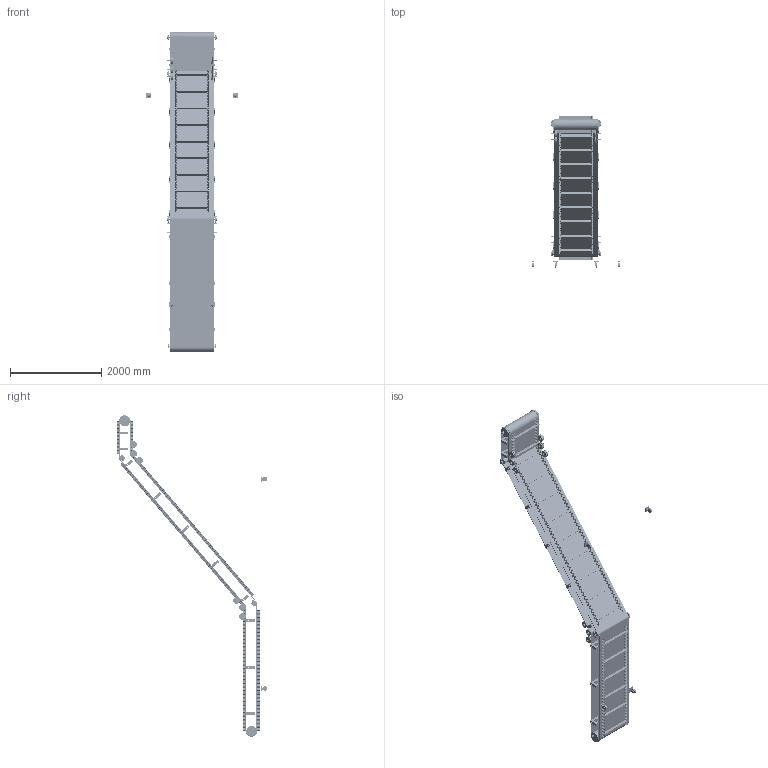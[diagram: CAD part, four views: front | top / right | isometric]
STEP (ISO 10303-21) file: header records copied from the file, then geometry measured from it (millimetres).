
FILE_DESCRIPTION(/* description */ (''),/* implementation_level */ '2;1');
FILE_NAME(/* name */ 'beltconveyor_a051_w900_l8000.stp',/* time_stamp */ '2024-12-22T16:35:12+08:00',/* author */ (''),/* organization */ (''),/* preprocessor_version */ 'ST-DEVELOPER v16.7',/* originating_system */ 'SIEMENS PLM Software NX 12.0',/* authorisation */ '');
FILE_SCHEMA (('AUTOMOTIVE_DESIGN { 1 0 10303 214 3 1 1 1 }'));
Products named in the file (12): kayar rulman yata瘕25 lik.IGS; alt silindir.IGS; Part1.IGS; silindir.IGS; teker11.IGS; gerdirme tekeri mil.IGS; ucfl206.IGS; bant.IGS; ucf206.IGS; gerdirme tekeri.IGS; ara ba餷ama.IGS; beltconveyor_a051_w900_l8000
Assembly tree (52 placements, depth 2):
  beltconveyor_a051_w900_l8000
    ara ba餷ama.IGS  x10
    gerdirme tekeri.IGS  x12
    ucf206.IGS  x2
    bant.IGS
    ucfl206.IGS  x4
    gerdirme tekeri mil.IGS  x12
    teker11.IGS  x4
    silindir.IGS  x2
    Part1.IGS
    alt silindir.IGS  x2
    kayar rulman yata瘕25 lik.IGS  x2
Bounding box: 2000 x 3305.98 x 7042 mm (x, y, z)
Volume: 284353353.6 mm3; surface area: 50220328.9 mm2
Topology: 97 solids, 97 shells, 3120 faces, 8186 edges, 5396 vertices
Faces by surface type: bspline 1178, cylinder 1132, plane 774, cone 36
Entity records: 86642 total; most frequent: CARTESIAN_POINT 45083, ORIENTED_EDGE 11754, EDGE_CURVE 5877, DIRECTION 5017, VERTEX_POINT 3892, EDGE_LOOP 2171, ADVANCED_FACE 2111, FACE_OUTER_BOUND 2073
